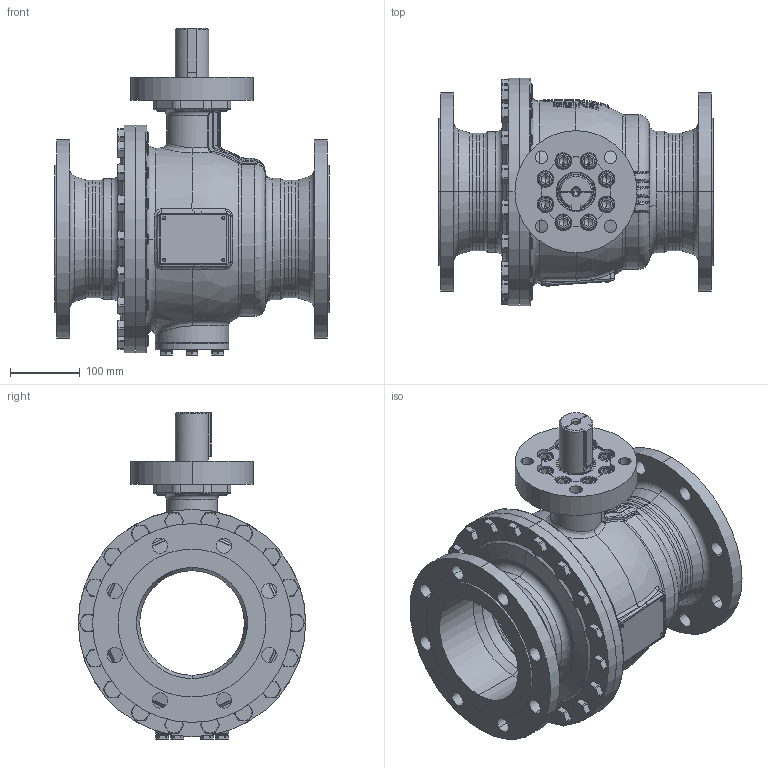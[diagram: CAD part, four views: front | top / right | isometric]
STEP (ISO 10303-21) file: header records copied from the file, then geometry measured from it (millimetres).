
FILE_DESCRIPTION((''),'2;1');
FILE_NAME('KHI-F_150_PN010-F14-P_SW0001','2026-02-05T11:07:16',('fischerkl'),('KLINGER'),'CREO PARAMETRIC BY PTC INC, 2023014','CREO PARAMETRIC BY PTC INC, 2023014','');
FILE_SCHEMA(('CONFIG_CONTROL_DESIGN'));
Products named in the file (1): KHI-F_150_PN010-F14-P_SW0001
Bounding box: 394 x 326 x 469.2 mm (x, y, z)
Volume: 8039162.1 mm3; surface area: 1559726.6 mm2
Topology: 1 solids, 4 shells, 3724 faces, 9564 edges, 5969 vertices
Faces by surface type: plane 2283, cylinder 680, cone 362, torus 258, bspline 113, sphere 28
Entity records: 144686 total; most frequent: CARTESIAN_POINT 56460, ORIENTED_EDGE 19076, DIRECTION 17435, EDGE_CURVE 9538, AXIS2_PLACEMENT_3D 6146, VERTEX_POINT 5969, VECTOR 5143, LINE 5143
